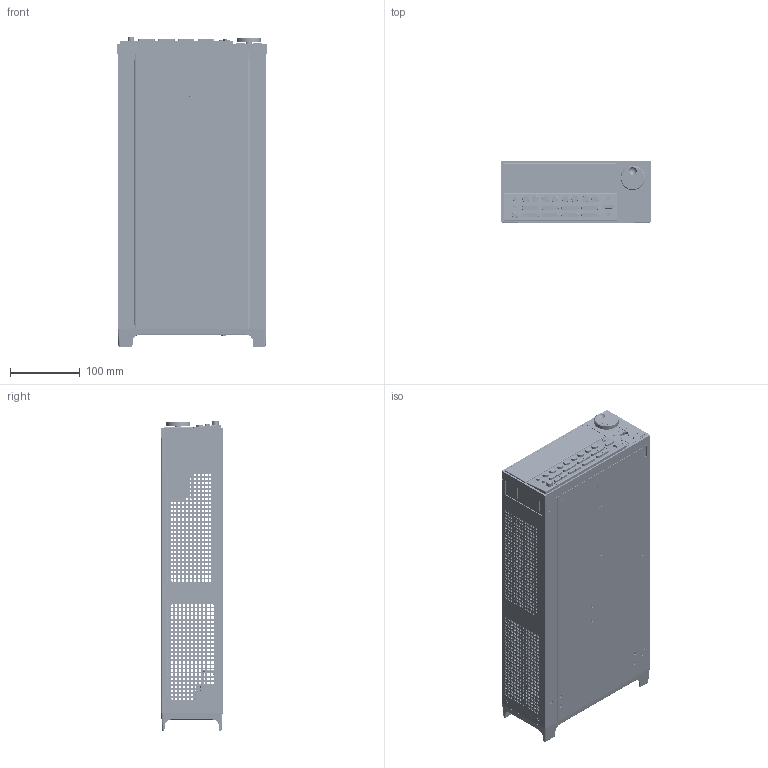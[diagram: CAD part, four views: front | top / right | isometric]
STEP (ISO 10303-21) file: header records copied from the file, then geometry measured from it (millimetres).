
FILE_DESCRIPTION((''),'2;1');
FILE_NAME('2604B_ASM','2021-10-29T15:44:07',('u607888'),(''),'CREO PARAMETRIC BY PTC INC, 2019080','CREO PARAMETRIC BY PTC INC, 2019080','');
FILE_SCHEMA(('CONFIG_CONTROL_DESIGN','SHAPE_APPEARANCE_LAYERS_GROUPS'));
Length unit declared in the file: inch
Products named in the file (41): 2602-301; 2604B-303; 2604B-304; 2604B-303_ASM; 6-32X1-4PFH; BJ-19-5; LF-11-PURCHPART; 4-40X1-4PFH; CS-507; CS-1150; CS-1032; 2604B-140_ASM; CS-713; CA-357-2-ASSY; CS-725; CA-358-ASSY; 7002-323-2; 2602-130_ASM; 2602A-305; 2602-306; 2602A-325_ASM; 2602A-315; 2602-316; 2602A-315_ASM; CA-311-4INSTALLED; 2602A-313; 236-305-1; GCS-1-2; 2000-324; GCS-1-2_ASM; 2604B-312; 2604B-311_ASM; 2604B-FRONT-PANEL_ASM; CS-1175-1; CS-1194-8; 2602A-100_ASM; 2602A-310; 2602-329; 2600-TOP-COVER_ASM; 428-303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
Assembly tree (53 placements, depth 5):
  2604B_ASM
    2602-301
    2604B-303_ASM
      2604B-303
      2604B-304
    6-32X1-4PFH  x2
    BJ-19-5
    LF-11-PURCHPART
    4-40X1-4PFH  x8
    2604B-140_ASM
      CS-507
      CS-1150
      CS-1032
    CS-713  x2
    CA-357-2-ASSY
    CS-725  x4
    CA-358-ASSY
    2602-130_ASM
      7002-323-2
    2604B-FRONT-PANEL_ASM
      2602A-325_ASM
        2602A-305
        2602-306
      2602A-315_ASM
        2602A-315
        2602-316
      CA-311-4INSTALLED
      2602A-313
      236-305-1
      2604B-311_ASM
        GCS-1-2_ASM
          GCS-1-2
          2000-324
        2604B-312
    2602A-100_ASM  x2
      CS-1175-1
      CS-1194-8
    2600-TOP-COVER_ASM
      2602A-310
      2602-329
    428-303
Bounding box: 213.87 x 88.54 x 445.11 mm (x, y, z)
Volume: 701266.6 mm3; surface area: 935871.1 mm2
Topology: 85 solids, 85 shells, 15857 faces, 44837 edges, 29733 vertices
Faces by surface type: plane 14273, cylinder 1315, cone 185, torus 50, sphere 20, bspline 12, extrusion 2
Entity records: 600909 total; most frequent: CARTESIAN_POINT 89349, ORIENTED_EDGE 86450, DIRECTION 76021, EDGE_CURVE 43225, VECTOR 40529, LINE 40527, PRESENTATION_STYLE_ASSIGNMENT 34250, STYLED_ITEM 34193
